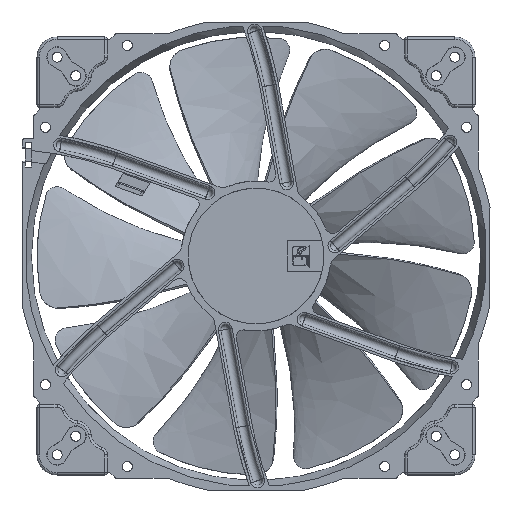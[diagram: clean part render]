
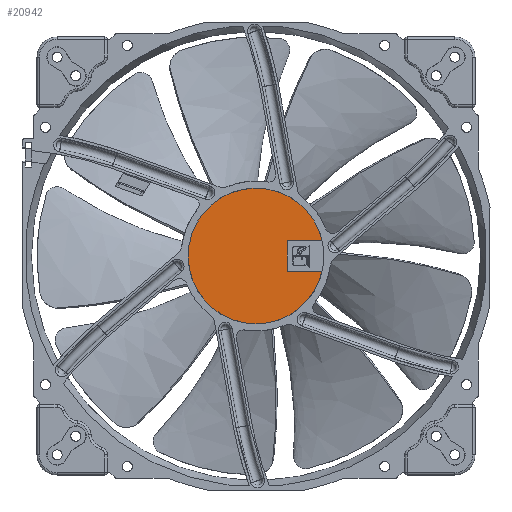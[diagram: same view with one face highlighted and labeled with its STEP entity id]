
A CAD part, front view. The second image highlights one B-rep face of the part: STEP entity #20942.
In plain terms, the highlighted planar face has unit normal (0, -1, 0).
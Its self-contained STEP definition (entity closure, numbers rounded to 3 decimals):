
#2506=CIRCLE('',#23049,0.6);
#2507=CIRCLE('',#23050,0.6);
#2508=CIRCLE('',#23051,0.6);
#2509=CIRCLE('',#23052,0.6);
#2514=CIRCLE('',#23058,29.);
#9287=ORIENTED_EDGE('',*,*,#12661,.F.);
#9288=ORIENTED_EDGE('',*,*,#12660,.F.);
#9289=ORIENTED_EDGE('',*,*,#12677,.F.);
#9290=ORIENTED_EDGE('',*,*,#12666,.T.);
#9291=ORIENTED_EDGE('',*,*,#12665,.F.);
#9292=ORIENTED_EDGE('',*,*,#12664,.F.);
#9293=ORIENTED_EDGE('',*,*,#12663,.F.);
#9294=ORIENTED_EDGE('',*,*,#12662,.F.);
#12660=EDGE_CURVE('',#14858,#14859,#2506,.T.);
#12661=EDGE_CURVE('',#14859,#14860,#15860,.T.);
#12662=EDGE_CURVE('',#14860,#14861,#2507,.T.);
#12663=EDGE_CURVE('',#14861,#14862,#15861,.T.);
#12664=EDGE_CURVE('',#14862,#14863,#2508,.T.);
#12665=EDGE_CURVE('',#14863,#14864,#15862,.T.);
#12666=EDGE_CURVE('',#14865,#14864,#2509,.T.);
#12677=EDGE_CURVE('',#14865,#14858,#2514,.T.);
#14858=VERTEX_POINT('',#46553);
#14859=VERTEX_POINT('',#46554);
#14860=VERTEX_POINT('',#46556);
#14861=VERTEX_POINT('',#46558);
#14862=VERTEX_POINT('',#46560);
#14863=VERTEX_POINT('',#46562);
#14864=VERTEX_POINT('',#46564);
#14865=VERTEX_POINT('',#46566);
#15860=LINE('',#46555,#16868);
#15861=LINE('',#46559,#16869);
#15862=LINE('',#46563,#16870);
#16868=VECTOR('',#27211,1000.);
#16869=VECTOR('',#27214,1000.);
#16870=VECTOR('',#27217,1000.);
#18206=EDGE_LOOP('',(#9287,#9288,#9289,#9290,#9291,#9292,#9293,#9294));
#19502=FACE_BOUND('',#18206,.T.);
#19831=PLANE('',#23060);
#20942=ADVANCED_FACE('',(#19502),#19831,.F.);
#23049=AXIS2_PLACEMENT_3D('',#46552,#27209,#27210);
#23050=AXIS2_PLACEMENT_3D('',#46557,#27212,#27213);
#23051=AXIS2_PLACEMENT_3D('',#46561,#27215,#27216);
#23052=AXIS2_PLACEMENT_3D('',#46565,#27218,#27219);
#23058=AXIS2_PLACEMENT_3D('',#46595,#27235,#27236);
#23060=AXIS2_PLACEMENT_3D('',#46597,#27239,#27240);
#27209=DIRECTION('',(0.,-1.,0.));
#27210=DIRECTION('',(1.,0.,0.));
#27211=DIRECTION('',(0.,0.,-1.));
#27212=DIRECTION('',(0.,-1.,0.));
#27213=DIRECTION('',(1.,0.,0.));
#27214=DIRECTION('',(1.,0.,0.));
#27215=DIRECTION('',(0.,-1.,0.));
#27216=DIRECTION('',(-1.,0.,0.));
#27217=DIRECTION('',(0.,0.,1.));
#27218=DIRECTION('',(0.,1.,0.));
#27219=DIRECTION('',(-1.,0.,0.));
#27235=DIRECTION('',(0.,1.,0.));
#27236=DIRECTION('',(1.,0.,0.));
#27239=DIRECTION('',(0.,1.,0.));
#27240=DIRECTION('',(0.,0.,1.));
#46552=CARTESIAN_POINT('',(-6.05,0.,27.748));
#46553=CARTESIAN_POINT('',(-6.178,0.,28.334));
#46554=CARTESIAN_POINT('',(-6.65,0.,27.748));
#46555=CARTESIAN_POINT('',(-6.65,0.,27.748));
#46556=CARTESIAN_POINT('',(-6.65,0.,13.95));
#46557=CARTESIAN_POINT('',(-6.05,0.,13.95));
#46558=CARTESIAN_POINT('',(-6.05,0.,13.35));
#46559=CARTESIAN_POINT('',(-6.05,0.,13.35));
#46560=CARTESIAN_POINT('',(6.05,0.,13.35));
#46561=CARTESIAN_POINT('',(6.05,0.,13.95));
#46562=CARTESIAN_POINT('',(6.65,0.,13.95));
#46563=CARTESIAN_POINT('',(6.65,0.,13.95));
#46564=CARTESIAN_POINT('',(6.65,0.,27.748));
#46565=CARTESIAN_POINT('',(6.05,0.,27.748));
#46566=CARTESIAN_POINT('',(6.178,0.,28.334));
#46595=CARTESIAN_POINT('',(0.,0.,0.));
#46597=CARTESIAN_POINT('',(0.,0.,0.));
